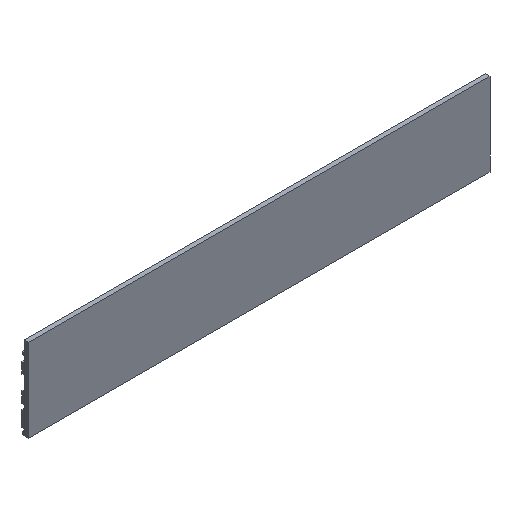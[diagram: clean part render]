
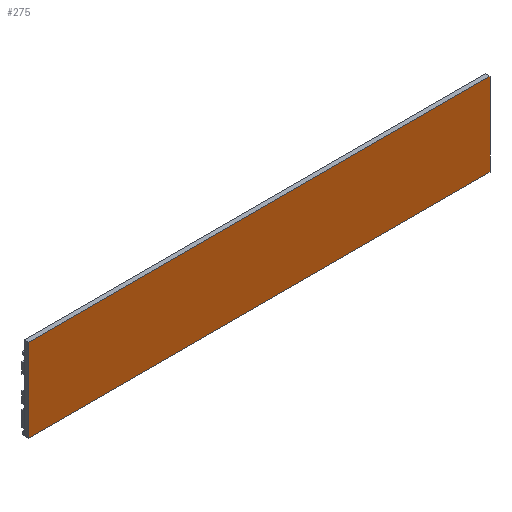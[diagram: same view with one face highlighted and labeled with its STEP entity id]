
A CAD part, isometric view. The second image highlights one B-rep face of the part: STEP entity #275.
In plain terms, the highlighted planar face has unit normal (0, -1, 0).
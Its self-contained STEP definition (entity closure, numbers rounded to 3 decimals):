
#59 = EDGE_CURVE('',#60,#62,#64,.T.);
#60 = VERTEX_POINT('',#61);
#61 = CARTESIAN_POINT('',(-50.,-22.95,1.));
#62 = VERTEX_POINT('',#63);
#63 = CARTESIAN_POINT('',(-50.,-22.95,19.));
#64 = SURFACE_CURVE('',#65,(#69,#81),.PCURVE_S1.);
#65 = LINE('',#66,#67);
#66 = CARTESIAN_POINT('',(-50.,-22.95,1.));
#67 = VECTOR('',#68,1.);
#68 = DIRECTION('',(0.,0.,1.));
#69 = PCURVE('',#70,#75);
#70 = PLANE('',#71);
#71 = AXIS2_PLACEMENT_3D('',#72,#73,#74);
#72 = CARTESIAN_POINT('',(-50.,-22.95,1.));
#73 = DIRECTION('',(1.,0.,0.));
#74 = DIRECTION('',(0.,0.,1.));
#75 = DEFINITIONAL_REPRESENTATION('',(#76),#80);
#76 = LINE('',#77,#78);
#77 = CARTESIAN_POINT('',(0.,0.));
#78 = VECTOR('',#79,1.);
#79 = DIRECTION('',(1.,0.));
#80 = ( GEOMETRIC_REPRESENTATION_CONTEXT(2) 
PARAMETRIC_REPRESENTATION_CONTEXT() REPRESENTATION_CONTEXT('2D SPACE',''
  ) );
#81 = PCURVE('',#82,#87);
#82 = PLANE('',#83);
#83 = AXIS2_PLACEMENT_3D('',#84,#85,#86);
#84 = CARTESIAN_POINT('',(-50.,-22.95,1.));
#85 = DIRECTION('',(0.,1.,0.));
#86 = DIRECTION('',(0.,0.,1.));
#87 = DEFINITIONAL_REPRESENTATION('',(#88),#92);
#88 = LINE('',#89,#90);
#89 = CARTESIAN_POINT('',(0.,0.));
#90 = VECTOR('',#91,1.);
#91 = DIRECTION('',(1.,0.));
#92 = ( GEOMETRIC_REPRESENTATION_CONTEXT(2) 
PARAMETRIC_REPRESENTATION_CONTEXT() REPRESENTATION_CONTEXT('2D SPACE',''
  ) );
#110 = PLANE('',#111);
#111 = AXIS2_PLACEMENT_3D('',#112,#113,#114);
#112 = CARTESIAN_POINT('',(-50.,-22.95,1.));
#113 = DIRECTION('',(0.,0.,1.));
#114 = DIRECTION('',(1.,0.,0.));
#164 = PLANE('',#165);
#165 = AXIS2_PLACEMENT_3D('',#166,#167,#168);
#166 = CARTESIAN_POINT('',(-50.,-22.95,19.));
#167 = DIRECTION('',(0.,0.,1.));
#168 = DIRECTION('',(1.,0.,0.));
#179 = EDGE_CURVE('',#180,#182,#184,.T.);
#180 = VERTEX_POINT('',#181);
#181 = CARTESIAN_POINT('',(50.,-22.95,1.));
#182 = VERTEX_POINT('',#183);
#183 = CARTESIAN_POINT('',(50.,-22.95,19.));
#184 = SURFACE_CURVE('',#185,(#189,#201),.PCURVE_S1.);
#185 = LINE('',#186,#187);
#186 = CARTESIAN_POINT('',(50.,-22.95,1.));
#187 = VECTOR('',#188,1.);
#188 = DIRECTION('',(0.,0.,1.));
#189 = PCURVE('',#190,#195);
#190 = PLANE('',#191);
#191 = AXIS2_PLACEMENT_3D('',#192,#193,#194);
#192 = CARTESIAN_POINT('',(50.,-22.95,1.));
#193 = DIRECTION('',(1.,0.,0.));
#194 = DIRECTION('',(0.,0.,1.));
#195 = DEFINITIONAL_REPRESENTATION('',(#196),#200);
#196 = LINE('',#197,#198);
#197 = CARTESIAN_POINT('',(0.,0.));
#198 = VECTOR('',#199,1.);
#199 = DIRECTION('',(1.,0.));
#200 = ( GEOMETRIC_REPRESENTATION_CONTEXT(2) 
PARAMETRIC_REPRESENTATION_CONTEXT() REPRESENTATION_CONTEXT('2D SPACE',''
  ) );
#201 = PCURVE('',#82,#202);
#202 = DEFINITIONAL_REPRESENTATION('',(#203),#207);
#203 = LINE('',#204,#205);
#204 = CARTESIAN_POINT('',(0.,100.));
#205 = VECTOR('',#206,1.);
#206 = DIRECTION('',(1.,0.));
#207 = ( GEOMETRIC_REPRESENTATION_CONTEXT(2) 
PARAMETRIC_REPRESENTATION_CONTEXT() REPRESENTATION_CONTEXT('2D SPACE',''
  ) );
#275 = ADVANCED_FACE('',(#276),#82,.F.);
#276 = FACE_BOUND('',#277,.F.);
#277 = EDGE_LOOP('',(#278,#299,#300,#321));
#278 = ORIENTED_EDGE('',*,*,#279,.F.);
#279 = EDGE_CURVE('',#60,#180,#280,.T.);
#280 = SURFACE_CURVE('',#281,(#285,#292),.PCURVE_S1.);
#281 = LINE('',#282,#283);
#282 = CARTESIAN_POINT('',(-50.,-22.95,1.));
#283 = VECTOR('',#284,1.);
#284 = DIRECTION('',(1.,0.,0.));
#285 = PCURVE('',#82,#286);
#286 = DEFINITIONAL_REPRESENTATION('',(#287),#291);
#287 = LINE('',#288,#289);
#288 = CARTESIAN_POINT('',(0.,0.));
#289 = VECTOR('',#290,1.);
#290 = DIRECTION('',(0.,1.));
#291 = ( GEOMETRIC_REPRESENTATION_CONTEXT(2) 
PARAMETRIC_REPRESENTATION_CONTEXT() REPRESENTATION_CONTEXT('2D SPACE',''
  ) );
#292 = PCURVE('',#110,#293);
#293 = DEFINITIONAL_REPRESENTATION('',(#294),#298);
#294 = LINE('',#295,#296);
#295 = CARTESIAN_POINT('',(0.,0.));
#296 = VECTOR('',#297,1.);
#297 = DIRECTION('',(1.,0.));
#298 = ( GEOMETRIC_REPRESENTATION_CONTEXT(2) 
PARAMETRIC_REPRESENTATION_CONTEXT() REPRESENTATION_CONTEXT('2D SPACE',''
  ) );
#299 = ORIENTED_EDGE('',*,*,#59,.T.);
#300 = ORIENTED_EDGE('',*,*,#301,.T.);
#301 = EDGE_CURVE('',#62,#182,#302,.T.);
#302 = SURFACE_CURVE('',#303,(#307,#314),.PCURVE_S1.);
#303 = LINE('',#304,#305);
#304 = CARTESIAN_POINT('',(-50.,-22.95,19.));
#305 = VECTOR('',#306,1.);
#306 = DIRECTION('',(1.,0.,0.));
#307 = PCURVE('',#82,#308);
#308 = DEFINITIONAL_REPRESENTATION('',(#309),#313);
#309 = LINE('',#310,#311);
#310 = CARTESIAN_POINT('',(18.,0.));
#311 = VECTOR('',#312,1.);
#312 = DIRECTION('',(0.,1.));
#313 = ( GEOMETRIC_REPRESENTATION_CONTEXT(2) 
PARAMETRIC_REPRESENTATION_CONTEXT() REPRESENTATION_CONTEXT('2D SPACE',''
  ) );
#314 = PCURVE('',#164,#315);
#315 = DEFINITIONAL_REPRESENTATION('',(#316),#320);
#316 = LINE('',#317,#318);
#317 = CARTESIAN_POINT('',(0.,0.));
#318 = VECTOR('',#319,1.);
#319 = DIRECTION('',(1.,0.));
#320 = ( GEOMETRIC_REPRESENTATION_CONTEXT(2) 
PARAMETRIC_REPRESENTATION_CONTEXT() REPRESENTATION_CONTEXT('2D SPACE',''
  ) );
#321 = ORIENTED_EDGE('',*,*,#179,.F.);
